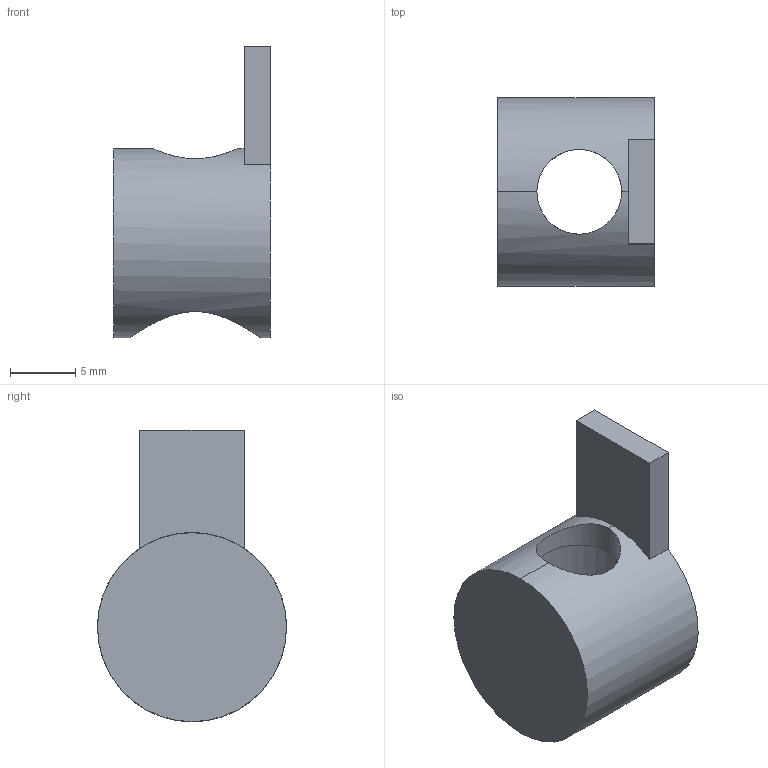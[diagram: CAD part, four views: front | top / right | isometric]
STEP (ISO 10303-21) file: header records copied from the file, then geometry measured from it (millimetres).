
FILE_DESCRIPTION (( 'STEP AP214' ), '1' );
FILE_NAME ('1.3008 Pulttikiinnike 15 C.STEP', '2025-09-09T11:47:55', ( '' ), ( '' ), 'SwSTEP 2.0', 'SolidWorks 2025', '' );
FILE_SCHEMA (( 'AUTOMOTIVE_DESIGN' ));
Length unit declared in the file: millimetre
Products named in the file (1): 1.3008 Pulttikiinnike 15 C
Bounding box: 12 x 14.5 x 22.35 mm (x, y, z)
Volume: 1119 mm3; surface area: 1363.8 mm2
Topology: 1 solids, 1 shells, 13 faces, 32 edges, 20 vertices
Faces by surface type: plane 7, cylinder 6
Entity records: 678 total; most frequent: CARTESIAN_POINT 198, DIRECTION 66, ORIENTED_EDGE 64, EDGE_CURVE 32, AXIS2_PLACEMENT_3D 24, VERTEX_POINT 20, VECTOR 18, LINE 18
